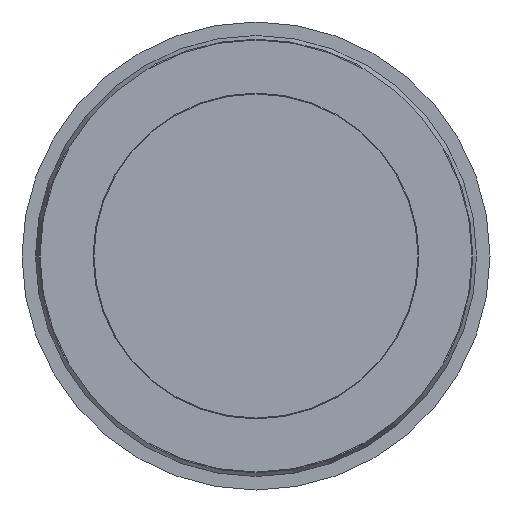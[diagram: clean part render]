
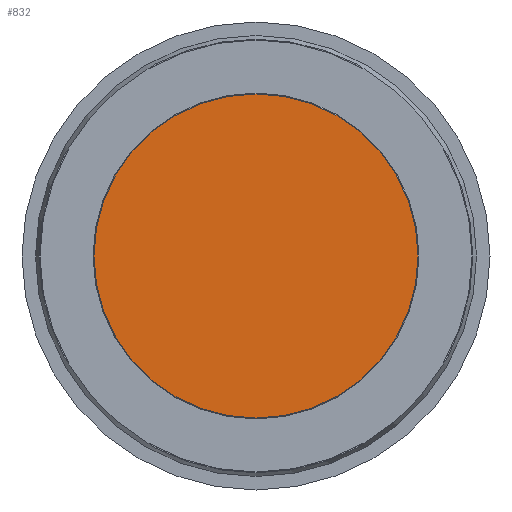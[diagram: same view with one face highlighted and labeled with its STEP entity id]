
A CAD part, front view. The second image highlights one B-rep face of the part: STEP entity #832.
In plain terms, the highlighted planar face has unit normal (0, -1, 0).
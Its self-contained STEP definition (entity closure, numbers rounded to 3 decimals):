
#25 = DIRECTION ( 'NONE',  ( 0., -1., 0. ) ) ;
#81 = CARTESIAN_POINT ( 'NONE',  ( 0., 0., 0. ) ) ;
#593 = ORIENTED_EDGE ( 'NONE', *, *, #2245, .T. ) ;
#832 = ADVANCED_FACE ( 'NONE', ( #3159 ), #2812, .T. ) ;
#1041 = VERTEX_POINT ( 'NONE', #2786 ) ;
#1581 = DIRECTION ( 'NONE',  ( 0., 0., -1. ) ) ;
#1593 = EDGE_LOOP ( 'NONE', ( #593 ) ) ;
#1862 = DIRECTION ( 'NONE',  ( 0., 0., -1. ) ) ;
#1868 = DIRECTION ( 'NONE',  ( 0., -1., 0. ) ) ;
#2245 = EDGE_CURVE ( 'NONE', #1041, #1041, #3040, .T. ) ;
#2680 = AXIS2_PLACEMENT_3D ( 'NONE', #4015, #25, #1862 ) ;
#2786 = CARTESIAN_POINT ( 'NONE',  ( 0., 0., -18. ) ) ;
#2812 = PLANE ( 'NONE',  #2680 ) ;
#3040 = CIRCLE ( 'NONE', #3111, 18. ) ;
#3111 = AXIS2_PLACEMENT_3D ( 'NONE', #81, #1868, #1581 ) ;
#3159 = FACE_OUTER_BOUND ( 'NONE', #1593, .T. ) ;
#4015 = CARTESIAN_POINT ( 'NONE',  ( 0., 0., 0. ) ) ;
